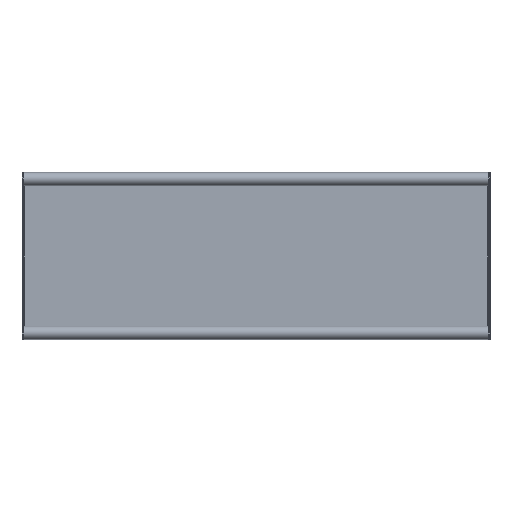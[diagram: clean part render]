
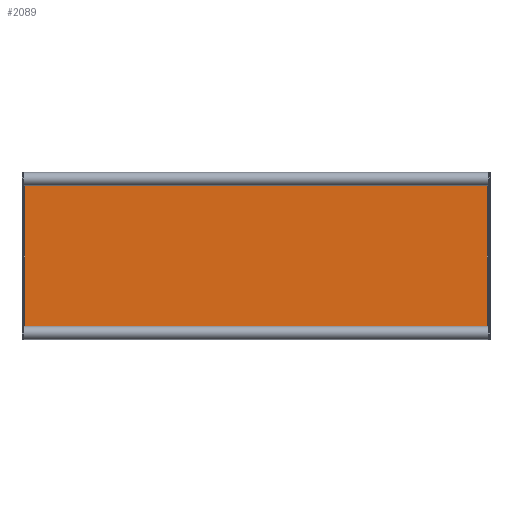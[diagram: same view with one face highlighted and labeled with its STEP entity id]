
A CAD part, front view. The second image highlights one B-rep face of the part: STEP entity #2089.
In plain terms, the highlighted planar face has unit normal (0, -1, 0).
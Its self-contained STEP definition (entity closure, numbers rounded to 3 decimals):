
#25 = ORIENTED_EDGE ( 'NONE', *, *, #2888, .F. ) ;
#34 = ORIENTED_EDGE ( 'NONE', *, *, #915, .F. ) ;
#77 = DIRECTION ( 'NONE',  ( 0., 0., 1. ) ) ;
#128 = AXIS2_PLACEMENT_3D ( 'NONE', #1774, #4912, #7983 ) ;
#226 = EDGE_LOOP ( 'NONE', ( #3975, #5839, #25, #3808, #8792, #34, #6563, #9285 ) ) ;
#460 = CIRCLE ( 'NONE', #128, 5. ) ;
#523 = VECTOR ( 'NONE', #2467, 1000. ) ;
#915 = EDGE_CURVE ( 'NONE', #9364, #4748, #7721, .T. ) ;
#1329 = CARTESIAN_POINT ( 'NONE',  ( 349., -2., -124. ) ) ;
#1539 = CARTESIAN_POINT ( 'NONE',  ( 349., -2., 124. ) ) ;
#1623 = AXIS2_PLACEMENT_3D ( 'NONE', #9172, #6833, #6134 ) ;
#1774 = CARTESIAN_POINT ( 'NONE',  ( -349., -2., -124. ) ) ;
#1800 = EDGE_CURVE ( 'NONE', #5725, #4187, #5419, .T. ) ;
#1896 = CARTESIAN_POINT ( 'NONE',  ( 345., -2., -121. ) ) ;
#2089 = ADVANCED_FACE ( 'NONE', ( #9048 ), #2163, .F. ) ;
#2163 = PLANE ( 'NONE',  #5094 ) ;
#2249 = LINE ( 'NONE', #9281, #7187 ) ;
#2405 = EDGE_CURVE ( 'NONE', #8489, #9364, #460, .T. ) ;
#2467 = DIRECTION ( 'NONE',  ( 1., 0., 0. ) ) ;
#2665 = DIRECTION ( 'NONE',  ( 1., 0., 0. ) ) ;
#2704 = AXIS2_PLACEMENT_3D ( 'NONE', #1539, #4585, #8312 ) ;
#2831 = EDGE_CURVE ( 'NONE', #5725, #4686, #2249, .T. ) ;
#2888 = EDGE_CURVE ( 'NONE', #7671, #4686, #7521, .T. ) ;
#3808 = ORIENTED_EDGE ( 'NONE', *, *, #8155, .F. ) ;
#3897 = LINE ( 'NONE', #3996, #6594 ) ;
#3975 = ORIENTED_EDGE ( 'NONE', *, *, #1800, .F. ) ;
#3986 = LINE ( 'NONE', #8592, #523 ) ;
#3996 = CARTESIAN_POINT ( 'NONE',  ( -349., -2., -121. ) ) ;
#4187 = VERTEX_POINT ( 'NONE', #1896 ) ;
#4585 = DIRECTION ( 'NONE',  ( 0., -1., 0. ) ) ;
#4686 = VERTEX_POINT ( 'NONE', #6478 ) ;
#4697 = DIRECTION ( 'NONE',  ( 0., 1., 0. ) ) ;
#4748 = VERTEX_POINT ( 'NONE', #8813 ) ;
#4912 = DIRECTION ( 'NONE',  ( 0., -1., 0. ) ) ;
#5094 = AXIS2_PLACEMENT_3D ( 'NONE', #7585, #4697, #77 ) ;
#5254 = DIRECTION ( 'NONE',  ( 0., 0., 1. ) ) ;
#5419 = CIRCLE ( 'NONE', #5582, 5. ) ;
#5547 = DIRECTION ( 'NONE',  ( 0., 0., 1. ) ) ;
#5582 = AXIS2_PLACEMENT_3D ( 'NONE', #1329, #7463, #6588 ) ;
#5595 = CARTESIAN_POINT ( 'NONE',  ( -346., -2., -124. ) ) ;
#5725 = VERTEX_POINT ( 'NONE', #8198 ) ;
#5751 = EDGE_CURVE ( 'NONE', #4748, #8570, #6899, .T. ) ;
#5839 = ORIENTED_EDGE ( 'NONE', *, *, #2831, .T. ) ;
#5898 = CARTESIAN_POINT ( 'NONE',  ( -345., -2., 121. ) ) ;
#5975 = CARTESIAN_POINT ( 'NONE',  ( -345., -2., -121. ) ) ;
#6134 = DIRECTION ( 'NONE',  ( 0., 0., 1. ) ) ;
#6238 = CARTESIAN_POINT ( 'NONE',  ( 345., -2., 121. ) ) ;
#6478 = CARTESIAN_POINT ( 'NONE',  ( 346., -2., 120. ) ) ;
#6501 = VECTOR ( 'NONE', #5547, 1000. ) ;
#6563 = ORIENTED_EDGE ( 'NONE', *, *, #2405, .F. ) ;
#6588 = DIRECTION ( 'NONE',  ( 0., 0., 1. ) ) ;
#6594 = VECTOR ( 'NONE', #2665, 1000. ) ;
#6676 = CARTESIAN_POINT ( 'NONE',  ( -346., -2., -120. ) ) ;
#6833 = DIRECTION ( 'NONE',  ( 0., -1., 0. ) ) ;
#6899 = CIRCLE ( 'NONE', #1623, 5. ) ;
#7187 = VECTOR ( 'NONE', #5254, 1000. ) ;
#7463 = DIRECTION ( 'NONE',  ( 0., -1., 0. ) ) ;
#7521 = CIRCLE ( 'NONE', #2704, 5. ) ;
#7585 = CARTESIAN_POINT ( 'NONE',  ( -349., -2., -124. ) ) ;
#7671 = VERTEX_POINT ( 'NONE', #6238 ) ;
#7721 = LINE ( 'NONE', #5595, #6501 ) ;
#7983 = DIRECTION ( 'NONE',  ( 0., 0., 1. ) ) ;
#8155 = EDGE_CURVE ( 'NONE', #8570, #7671, #3986, .T. ) ;
#8198 = CARTESIAN_POINT ( 'NONE',  ( 346., -2., -120. ) ) ;
#8312 = DIRECTION ( 'NONE',  ( 0., 0., 1. ) ) ;
#8408 = EDGE_CURVE ( 'NONE', #8489, #4187, #3897, .T. ) ;
#8489 = VERTEX_POINT ( 'NONE', #5975 ) ;
#8570 = VERTEX_POINT ( 'NONE', #5898 ) ;
#8592 = CARTESIAN_POINT ( 'NONE',  ( -349., -2., 121. ) ) ;
#8792 = ORIENTED_EDGE ( 'NONE', *, *, #5751, .F. ) ;
#8813 = CARTESIAN_POINT ( 'NONE',  ( -346., -2., 120. ) ) ;
#9048 = FACE_OUTER_BOUND ( 'NONE', #226, .T. ) ;
#9172 = CARTESIAN_POINT ( 'NONE',  ( -349., -2., 124. ) ) ;
#9281 = CARTESIAN_POINT ( 'NONE',  ( 346., -2., -124. ) ) ;
#9285 = ORIENTED_EDGE ( 'NONE', *, *, #8408, .T. ) ;
#9364 = VERTEX_POINT ( 'NONE', #6676 ) ;
